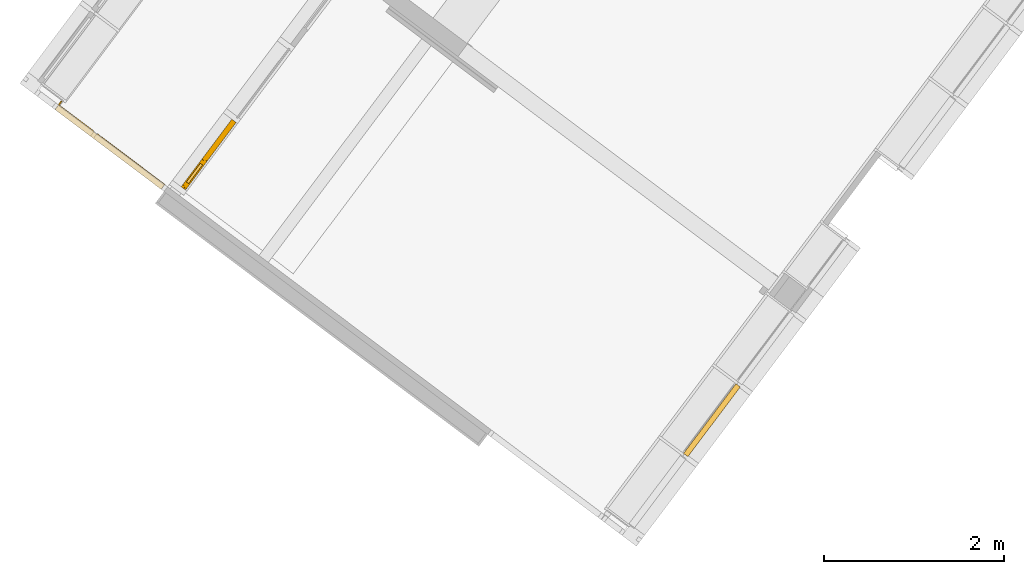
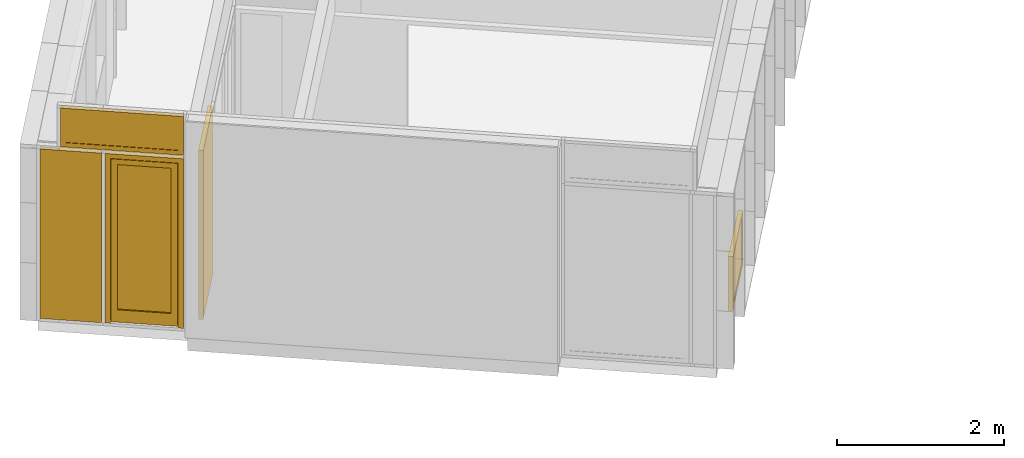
# One storey, part 177 of 243: 3 windows, 2 doors, 3 elements without a shape of their own.
"""IFC2X3 building model written with IfcOpenShell, lengths in metres."""

import ifcopenshell
import ifcopenshell.guid

model = None  # the IFC model being written
_history = None  # IfcOwnerHistory: only IFC2X3 demands one
_inside = {}  # id of a spatial element -> (the spatial element, [elements in it])
_under = {}  # id of a project, library or spatial element -> (it, [spatial elements below it])
_declared = {}  # id of a project -> (the project, [libraries it declares])
_typed = {}  # id of a type object -> (the type object, [elements of that type])
_made_of = {}  # id of a material, layer set ... -> (it, [elements and type objects made of it])


def new_model(schema):
    """Start an empty IFC model of exactly this schema.

    Asked for "IFC4X3", IfcOpenShell would pick the latest addendum, in which some entities
    have other attributes; the version numbers below select the first issue.
    IFC2X3 requires an IfcOwnerHistory on every rooted entity: one is made here for all.
    """
    global model, _history
    if schema == "IFC4X3":
        model = ifcopenshell.file(schema_version=(4, 3, 0, 0))
    else:
        model = ifcopenshell.file(schema=schema)
    _inside.clear()
    _under.clear()
    _declared.clear()
    _typed.clear()
    _made_of.clear()
    _history = None
    if model.schema == "IFC2X3":
        org = make("IfcOrganization", Name="unknown")
        user = make(
            "IfcPersonAndOrganization",
            ThePerson=make("IfcPerson", FamilyName="unknown"),
            TheOrganization=org,
        )
        app = make(
            "IfcApplication",
            ApplicationDeveloper=org,
            Version="unknown",
            ApplicationFullName="unknown",
            ApplicationIdentifier="unknown",
        )
        _history = make(
            "IfcOwnerHistory",
            OwningUser=user,
            OwningApplication=app,
            ChangeAction="ADDED",
            CreationDate=0,
        )
    return model


def make(cls, **values):
    """One entity of the class cls with the attributes given. An attribute that is None is left unset."""
    return model.create_entity(
        cls, **{name: value for name, value in values.items() if value is not None}
    )


def entity(cls, *values):
    """Any entity or typed value of the class cls, its attributes in the order of the schema. None: left unset."""
    e = model.create_entity(cls)
    for i, value in enumerate(values):
        if value is not None:
            e[i] = value
    return e


def rooted(cls, **values):
    """An entity with a GlobalId (a new one), such as an element, a storey or a relation."""
    return make(cls, GlobalId=ifcopenshell.guid.new(), OwnerHistory=_history, **values)


def si_unit(unit_type, name, prefix=None):
    """IfcSIUnit, for example si_unit("LENGTHUNIT", "METRE", prefix="MILLI")."""
    return make("IfcSIUnit", UnitType=unit_type, Prefix=prefix, Name=name)


def converted_unit(unit_type, name, factor, base, dimensions=None, offset=None):
    """IfcConversionBasedUnit, such as the inch: factor (a typed value) times the base unit."""
    return make(
        "IfcConversionBasedUnit"
        if offset is None
        else "IfcConversionBasedUnitWithOffset",
        ConversionOffset=offset,
        Dimensions=None
        if dimensions is None
        else entity("IfcDimensionalExponents", *dimensions),
        UnitType=unit_type,
        Name=name,
        ConversionFactor=make(
            "IfcMeasureWithUnit", ValueComponent=factor, UnitComponent=base
        ),
    )


def derived_unit(unit_type, elements):
    """IfcDerivedUnit: a product of units, each with its exponent."""
    return make(
        "IfcDerivedUnit",
        Elements=[
            make("IfcDerivedUnitElement", Unit=unit, Exponent=power)
            for unit, power in elements
        ],
        UnitType=unit_type,
    )


def assignment(units):
    """IfcUnitAssignment: the units of a project."""
    return None if units is None else make("IfcUnitAssignment", Units=units)


def point(xyz):
    """IfcCartesianPoint."""
    return None if xyz is None else make("IfcCartesianPoint", Coordinates=xyz)


def direction(xyz):
    """IfcDirection."""
    return None if xyz is None else make("IfcDirection", DirectionRatios=xyz)


def frame(location, z_axis=None, x_axis=None):
    """IfcAxis2Placement3D, a coordinate frame: its origin and axes. An axis left out is left unset."""
    return make(
        "IfcAxis2Placement3D",
        Location=point(location),
        Axis=direction(z_axis),
        RefDirection=direction(x_axis),
    )


def frame_2d(location, x_axis=None):
    """IfcAxis2Placement2D, a coordinate frame in the plane: its origin and x axis."""
    return make(
        "IfcAxis2Placement2D", Location=point(location), RefDirection=direction(x_axis)
    )


def origin():
    """The frame at (0, 0, 0) with its axes left unset."""
    return frame((0.0, 0.0, 0.0))


def origin_2d_with_axis():
    """The frame at (0, 0) in the plane with the x axis (1, 0) written out."""
    return frame_2d((0.0, 0.0), x_axis=(1.0, 0.0))


def place(relative_to, where):
    """IfcLocalPlacement: puts the frame where relative to a parent placement (None: the world)."""
    return make(
        "IfcLocalPlacement", PlacementRelTo=relative_to, RelativePlacement=where
    )


def context(
    kind, dimensions, precision=None, world=None, true_north=None, identifier=None
):
    """IfcGeometricRepresentationContext, for example the 3D "Model" context."""
    return make(
        "IfcGeometricRepresentationContext",
        ContextIdentifier=identifier,
        ContextType=kind,
        CoordinateSpaceDimension=dimensions,
        Precision=precision,
        WorldCoordinateSystem=world,
        TrueNorth=true_north,
    )


def subcontext(parent, identifier, kind, view, scale=None):
    """IfcGeometricRepresentationSubContext, for example "Body" below "Model"."""
    return make(
        "IfcGeometricRepresentationSubContext",
        ContextIdentifier=identifier,
        ContextType=kind,
        ParentContext=parent,
        TargetScale=scale,
        TargetView=view,
    )


def project(units=None, contexts=None):
    """IfcProject with its units and contexts."""
    return rooted(
        "IfcProject",
        Name="project",
        RepresentationContexts=contexts,
        UnitsInContext=assignment(units),
    )


def spatial(cls, under=None, at=None, **own):
    """A site, building, storey or space (cls), placed at a placement, below another one or the project."""
    s = rooted(cls, ObjectPlacement=at, **own)
    if under is not None:
        _under.setdefault(under.id(), (under, []))[1].append(s)
    return s


def polyline(points):
    """IfcPolyline through the points."""
    return make("IfcPolyline", Points=[point(p) for p in points])


def profile(cls, at=None, kind="AREA", **sizes):
    """A parametric profile (cls). Its sizes go by their IFC names, for example OverallWidth=200.0."""
    return make(cls, ProfileType=kind, Position=at, **sizes)


def rectangle(**sizes):
    """IfcRectangleProfileDef."""
    return profile("IfcRectangleProfileDef", **sizes)


def outline(outer, holes=None, kind="AREA"):
    """IfcArbitraryClosedProfileDef: a profile drawn as a closed curve; with holes, ...WithVoids."""
    if holes is None:
        return make("IfcArbitraryClosedProfileDef", ProfileType=kind, OuterCurve=outer)
    return make(
        "IfcArbitraryProfileDefWithVoids",
        ProfileType=kind,
        OuterCurve=outer,
        InnerCurves=holes,
    )


def extrude(swept, where, along, depth):
    """IfcExtrudedAreaSolid: the profile swept, set in the frame where, extruded along a direction by depth."""
    return make(
        "IfcExtrudedAreaSolid",
        SweptArea=swept,
        Position=where,
        ExtrudedDirection=direction(along),
        Depth=depth,
    )


def faces_of(points, faces, orient=None, outer=None):
    """IfcFace entities. A face is a list of loops; a loop is a list of indices into points, from 0.

    orient and outer hold one flag for each loop. By default every Orientation is true, the
    first loop of a face is its IfcFaceOuterBound and the others are IfcFaceBound.
    """
    made = []
    for i, loops in enumerate(faces):
        bounds = []
        for j, loop in enumerate(loops):
            is_outer = j == 0 if outer is None else outer[i][j]
            bounds.append(
                make(
                    "IfcFaceOuterBound" if is_outer else "IfcFaceBound",
                    Bound=make("IfcPolyLoop", Polygon=[points[k] for k in loop]),
                    Orientation=True if orient is None else orient[i][j],
                )
            )
        made.append(make("IfcFace", Bounds=bounds))
    return made


def faceted_brep(points, faces, orient=None, outer=None, voids=None):
    """IfcFacetedBrep: a solid bounded by flat faces; with voids (closed shells), ...WithVoids."""
    shared = [point(p) for p in points]
    hull = make("IfcClosedShell", CfsFaces=faces_of(shared, faces, orient, outer))
    if voids is None:
        return make("IfcFacetedBrep", Outer=hull)
    return make(
        "IfcFacetedBrepWithVoids",
        Outer=hull,
        Voids=[
            make(cls, CfsFaces=faces_of(shared, fs, o, b)) for cls, fs, o, b in voids
        ],
    )


def shape(context_of_items, identifier, shape_type, items):
    """IfcShapeRepresentation: the items that make up one representation, for example the "Body"."""
    return make(
        "IfcShapeRepresentation",
        ContextOfItems=context_of_items,
        RepresentationIdentifier=identifier,
        RepresentationType=shape_type,
        Items=items,
    )


def source(mapping_origin, context_of_items, identifier, shape_type, items):
    """IfcRepresentationMap: a shape defined once, which mapped items show again and again."""
    return make(
        "IfcRepresentationMap",
        MappingOrigin=mapping_origin,
        MappedRepresentation=shape(context_of_items, identifier, shape_type, items),
    )


def transform(
    local_origin,
    x_axis=None,
    y_axis=None,
    z_axis=None,
    scale=None,
    scale2=None,
    scale3=None,
    uniform=True,
):
    """IfcCartesianTransformationOperator3D, or its non-uniform kind. x_axis, y_axis, z_axis: its Axis1, 2, 3."""
    if uniform:
        return make(
            "IfcCartesianTransformationOperator3D",
            Axis1=direction(x_axis),
            Axis2=direction(y_axis),
            LocalOrigin=point(local_origin),
            Scale=scale,
            Axis3=direction(z_axis),
        )
    return make(
        "IfcCartesianTransformationOperator3DnonUniform",
        Axis1=direction(x_axis),
        Axis2=direction(y_axis),
        LocalOrigin=point(local_origin),
        Scale=scale,
        Axis3=direction(z_axis),
        Scale2=scale2,
        Scale3=scale3,
    )


def mapped(mapping_source, mapping_target):
    """IfcMappedItem: shows the shape of a source again, moved by a transform."""
    return make(
        "IfcMappedItem", MappingSource=mapping_source, MappingTarget=mapping_target
    )


def material(Name=None, Category=None):
    """IfcMaterial."""
    return make("IfcMaterial", Name=Name, Category=Category)


def material_list(materials):
    """IfcMaterialList."""
    return make("IfcMaterialList", Materials=materials)


def made_of(thing, what):
    """Note that an element or type object is made of a material, layer set ...; save() writes the relation."""
    if what is not None:
        _made_of.setdefault(what.id(), (what, []))[1].append(thing)
    return thing


def type_object(cls, material=None, **own):
    """A type object (cls), such as IfcWallType, which elements share."""
    return made_of(rooted(cls, **own), material)


def type_shapes(of_type, sources):
    """Give a type object the sources (RepresentationMaps) that its elements show as mapped items."""
    of_type.RepresentationMaps = sources


def element(
    cls,
    number,
    at=None,
    inside=None,
    cuts=None,
    type_object=None,
    material=None,
    context=None,
    identifier="Body",
    shape_type=None,
    held_by="IfcProductDefinitionShape",
    body=None,
    shapes=None,
    **own,
):
    """One element of the class cls, such as IfcWall. Its Tag is "e" and its number.

    at: its placement. inside: the storey or other place that contains it. cuts: it is an
    opening in that element (IfcRelVoidsElement). A single representation is given by context,
    identifier, shape_type and body (its items); several are given by shapes. held_by: the class
    of the entity that holds the representations. save() writes the other relations.
    """
    e = rooted(cls, Tag="e%d" % number, ObjectPlacement=at, **own)
    if body is not None:
        shapes = [shape(context, identifier, shape_type, body)]
    if shapes is not None:
        e.Representation = make(held_by, Representations=shapes)
    if inside is not None:
        _inside.setdefault(inside.id(), (inside, []))[1].append(e)
    if cuts is not None:
        rooted(
            "IfcRelVoidsElement", RelatingBuildingElement=cuts, RelatedOpeningElement=e
        )
    if type_object is not None:
        _typed.setdefault(type_object.id(), (type_object, []))[1].append(e)
    return made_of(e, material)


def aggregate(whole, parts):
    """IfcRelAggregates: a whole, such as a stair, and the parts it consists of."""
    return rooted("IfcRelAggregates", RelatingObject=whole, RelatedObjects=parts)


def save(model, path):
    """Write the relations noted so far, then the file.

    IfcRelAggregates (storeys below a building ...), IfcRelContainedInSpatialStructure (elements
    in a storey), IfcRelDefinesByType, IfcRelAssociatesMaterial and IfcRelDeclares: one each for
    every whole, place, type object, material and project.
    """
    for whole, parts in _under.values():
        aggregate(whole, parts)
    for where, things in _inside.values():
        rooted(
            "IfcRelContainedInSpatialStructure",
            RelatedElements=things,
            RelatingStructure=where,
        )
    for kind, things in _typed.values():
        rooted("IfcRelDefinesByType", RelatedObjects=things, RelatingType=kind)
    for what, things in _made_of.values():
        rooted("IfcRelAssociatesMaterial", RelatedObjects=things, RelatingMaterial=what)
    for by, libraries in _declared.values():
        rooted("IfcRelDeclares", RelatingContext=by, RelatedDefinitions=libraries)
    model.write(path)


model = new_model("IFC2X3")

# Units and contexts
model_context = context("Model", 3, precision=1e-05, world=origin(), true_north=direction((6.123031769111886e-17, 1.0)))
body_context = subcontext(model_context, "Body", "Model", "MODEL_VIEW")
ifc_project = project(units=[si_unit("LENGTHUNIT", "METRE"), si_unit("AREAUNIT", "SQUARE_METRE"), si_unit("VOLUMEUNIT", "CUBIC_METRE"), converted_unit("PLANEANGLEUNIT", "DEGREE", entity("IfcRatioMeasure", 0.017453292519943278), si_unit("PLANEANGLEUNIT", "RADIAN"), dimensions=[0, 0, 0, 0, 0, 0, 0]), si_unit("MASSUNIT", "GRAM", prefix="KILO"), derived_unit("MASSDENSITYUNIT", [(si_unit("MASSUNIT", "GRAM", prefix="KILO"), 1), (si_unit("LENGTHUNIT", "METRE"), -3)]), derived_unit("IONCONCENTRATIONUNIT", [(si_unit("MASSUNIT", "GRAM", prefix="KILO"), 1), (si_unit("LENGTHUNIT", "METRE"), -3)]), derived_unit("MOMENTOFINERTIAUNIT", [(si_unit("LENGTHUNIT", "METRE"), 4)]), si_unit("TIMEUNIT", "SECOND"), si_unit("FREQUENCYUNIT", "HERTZ"), si_unit("THERMODYNAMICTEMPERATUREUNIT", "DEGREE_CELSIUS"), derived_unit("THERMALTRANSMITTANCEUNIT", [(si_unit("MASSUNIT", "GRAM", prefix="KILO"), 1), (si_unit("THERMODYNAMICTEMPERATUREUNIT", "KELVIN"), -1), (si_unit("TIMEUNIT", "SECOND"), -3)]), derived_unit("THERMALCONDUCTANCEUNIT", [(si_unit("MASSUNIT", "GRAM", prefix="KILO"), 1), (si_unit("THERMODYNAMICTEMPERATUREUNIT", "KELVIN"), -1), (si_unit("TIMEUNIT", "SECOND"), -3), (si_unit("LENGTHUNIT", "METRE"), 1)]), derived_unit("VOLUMETRICFLOWRATEUNIT", [(si_unit("LENGTHUNIT", "METRE"), 3), (si_unit("TIMEUNIT", "SECOND"), -1)]), derived_unit("MASSFLOWRATEUNIT", [(si_unit("MASSUNIT", "GRAM", prefix="KILO"), 1), (si_unit("TIMEUNIT", "SECOND"), -1)]), derived_unit("ROTATIONALFREQUENCYUNIT", [(si_unit("TIMEUNIT", "SECOND"), -1)]), si_unit("ELECTRICCURRENTUNIT", "AMPERE"), si_unit("ELECTRICVOLTAGEUNIT", "VOLT"), si_unit("POWERUNIT", "WATT"), si_unit("FORCEUNIT", "NEWTON", prefix="KILO"), si_unit("ILLUMINANCEUNIT", "LUX"), si_unit("LUMINOUSFLUXUNIT", "LUMEN"), si_unit("LUMINOUSINTENSITYUNIT", "CANDELA"), derived_unit("USERDEFINED", [(si_unit("MASSUNIT", "GRAM", prefix="KILO"), -1), (si_unit("LENGTHUNIT", "METRE"), -2), (si_unit("TIMEUNIT", "SECOND"), 3), (si_unit("LUMINOUSFLUXUNIT", "LUMEN"), 1)]), derived_unit("USERDEFINED", [(si_unit("MASSUNIT", "GRAM", prefix="KILO"), 1), (si_unit("TIMEUNIT", "SECOND"), -3), (si_unit("LENGTHUNIT", "METRE"), 3), (si_unit("ELECTRICCURRENTUNIT", "AMPERE"), -2)]), derived_unit("SOUNDPOWERUNIT", [(si_unit("MASSUNIT", "GRAM", prefix="KILO"), 1), (si_unit("TIMEUNIT", "SECOND"), -3), (si_unit("LENGTHUNIT", "METRE"), 2)]), derived_unit("SOUNDPRESSUREUNIT", [(si_unit("MASSUNIT", "GRAM", prefix="KILO"), 1), (si_unit("LENGTHUNIT", "METRE"), -1), (si_unit("TIMEUNIT", "SECOND"), -2)]), derived_unit("LINEARVELOCITYUNIT", [(si_unit("LENGTHUNIT", "METRE"), 1), (si_unit("TIMEUNIT", "SECOND"), -1)]), si_unit("PRESSUREUNIT", "PASCAL"), derived_unit("USERDEFINED", [(si_unit("MASSUNIT", "GRAM", prefix="KILO"), 1), (si_unit("LENGTHUNIT", "METRE"), -2), (si_unit("TIMEUNIT", "SECOND"), -2)]), derived_unit("LINEARFORCEUNIT", [(si_unit("MASSUNIT", "GRAM", prefix="KILO"), 1), (si_unit("TIMEUNIT", "SECOND"), -2)]), derived_unit("PLANARFORCEUNIT", [(si_unit("MASSUNIT", "GRAM", prefix="KILO"), 1), (si_unit("LENGTHUNIT", "METRE"), -1), (si_unit("TIMEUNIT", "SECOND"), -2)]), derived_unit("SPECIFICHEATCAPACITYUNIT", [(si_unit("THERMODYNAMICTEMPERATUREUNIT", "KELVIN"), -1), (si_unit("LENGTHUNIT", "METRE"), 2), (si_unit("TIMEUNIT", "SECOND"), -2)]), derived_unit("HEATINGVALUEUNIT", [(si_unit("LENGTHUNIT", "METRE"), 2), (si_unit("TIMEUNIT", "SECOND"), -2)]), derived_unit("VAPORPERMEABILITYUNIT", [(si_unit("LENGTHUNIT", "METRE"), -1), (si_unit("TIMEUNIT", "SECOND"), 1)]), derived_unit("DYNAMICVISCOSITYUNIT", [(si_unit("MASSUNIT", "GRAM", prefix="KILO"), 1), (si_unit("TIMEUNIT", "SECOND"), -1), (si_unit("LENGTHUNIT", "METRE"), -1)]), derived_unit("THERMALEXPANSIONCOEFFICIENTUNIT", [(si_unit("THERMODYNAMICTEMPERATUREUNIT", "KELVIN"), -1)]), derived_unit("MODULUSOFELASTICITYUNIT", [(si_unit("MASSUNIT", "GRAM", prefix="KILO"), 1), (si_unit("LENGTHUNIT", "METRE"), -1), (si_unit("TIMEUNIT", "SECOND"), -2)]), derived_unit("ISOTHERMALMOISTURECAPACITYUNIT", [(si_unit("LENGTHUNIT", "METRE"), 3), (si_unit("MASSUNIT", "GRAM", prefix="KILO"), -1)]), derived_unit("MOISTUREDIFFUSIVITYUNIT", [(si_unit("TIMEUNIT", "SECOND"), -1), (si_unit("LENGTHUNIT", "METRE"), 2)])], contexts=[model_context])

# Site, building, storey
site_placement = place(None, frame((0.0, 0.0, 235.0), z_axis=(0.0, 0.0, 1.0), x_axis=(-0.7996477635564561, 0.6004693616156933, 0.0)))
site = spatial("IfcSite", under=ifc_project, at=site_placement, Name="Default", CompositionType="ELEMENT")
building_placement = place(site_placement, origin())
building = spatial("IfcBuilding", under=site, at=building_placement, CompositionType="ELEMENT")
storey_placement = place(building_placement, origin())
storey = spatial("IfcBuildingStorey", under=building, at=storey_placement, Name="P0- Escola", CompositionType="ELEMENT", Elevation=0.0)

# Curtain wall, window
curtain_wall_type_1 = type_object("IfcCurtainWallType", Name="Muro cortina:MC- INT- a1", PredefinedType="NOTDEFINED")
curtain_wall_1_placement = place(storey_placement, origin())
curtain_wall_1 = element("IfcCurtainWall", 1, at=curtain_wall_1_placement, inside=storey, type_object=curtain_wall_type_1, Name="Muro cortina:MC- INT- a1", ObjectType="Muro cortina:MC- INT- a1")
ifc_material_1 = material(Name="_Fusta massisa- T1-  REV- PAV")
window_style_1 = type_object("IfcWindowStyle", Name="MC- Fusta- Finestra ventilacio interior:MC- Fusta- Finestra ventilacio interior", ConstructionType="NOTDEFINED", OperationType="NOTDEFINED", ParameterTakesPrecedence=False, Sizeable=False, material=ifc_material_1)
shared_shape_1 = source(origin(), body_context, "Body", "Brep", [
    faceted_brep([(-0.39299910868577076, 0.025000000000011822, 2.382999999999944), (-0.3929991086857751, 0.025000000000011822, 1.0449999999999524), (-0.13199910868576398, 0.0250000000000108, 1.0449999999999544), (-0.13199910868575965, 0.02500000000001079, 2.382999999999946), (-0.13199910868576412, -0.004999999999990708, 1.0449999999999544), (-0.1319991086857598, -0.004999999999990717, 2.382999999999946), (-0.3929991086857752, -0.004999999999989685, 1.0449999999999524), (-0.3929991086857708, -0.004999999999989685, 2.382999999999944), (-0.08699910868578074, 0.04000000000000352, 2.427999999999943), (-0.08699910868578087, 0.01000000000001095, 2.428000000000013), (-0.08699910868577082, 0.010000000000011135, 1.0), (-0.08699910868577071, 0.04000000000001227, 1.0), (-0.43799910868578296, 0.010000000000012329, 1.0), (-0.43799910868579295, 0.010000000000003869, 2.427999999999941), (-0.4379991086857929, 0.0400000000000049, 2.427999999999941), (-0.4379991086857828, 0.04000000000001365, 1.0), (-0.07199910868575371, 0.009999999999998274, 0.9850000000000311), (-0.45299910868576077, 0.009999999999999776, 0.9850000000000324), (-0.45299910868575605, 0.010000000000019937, 2.4430000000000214), (-0.07199910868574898, 0.010000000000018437, 2.44300000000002), (-0.07199910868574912, -0.019999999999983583, 2.443000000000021), (-0.45299910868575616, -0.019999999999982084, 2.443000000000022), (-0.45299910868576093, -0.02000000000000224, 0.985000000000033), (-0.07199910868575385, -0.020000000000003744, 0.9850000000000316)], [[[0, 1, 2, 3]], [[3, 2, 4, 5]], [[5, 4, 6, 7]], [[1, 0, 7, 6]], [[8, 9, 10, 11]], [[12, 13, 14, 15]], [[13, 9, 8, 14]], [[8, 11, 15, 14]], [[0, 3, 5, 7]], [[2, 1, 6, 4]], [[11, 10, 12, 15]], [[9, 13, 12, 10], [16, 17, 18, 19]], [[20, 21, 22, 23]], [[20, 19, 18, 21]], [[16, 19, 20, 23]], [[18, 17, 22, 21]], [[16, 23, 22, 17]]], outer=[[True], [True], [True], [True], [True], [True], [True], [True], [True], [True], [True], [False, True], [True], [True], [True], [True], [True]]),
    faceted_brep([(0.4649991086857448, -0.019999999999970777, 2.4549999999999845), (-0.4649991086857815, -0.019999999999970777, 2.4549999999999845), (-0.46499910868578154, -0.020000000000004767, 0.004999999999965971), (0.46499910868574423, -0.020000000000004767, 0.004999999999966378), (-0.4549991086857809, -0.019999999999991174, 0.9850000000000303), (-0.4549991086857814, -0.01999999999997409, 2.444999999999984), (-0.06999910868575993, -0.019999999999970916, 2.444999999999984), (-0.06999910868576, -0.019999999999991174, 0.9850000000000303), (-0.46499910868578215, -0.01599999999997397, 2.454999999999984), (-0.46499910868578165, -0.01600000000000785, 0.004999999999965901), (0.4649991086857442, -0.01600000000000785, 0.004999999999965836), (0.4649991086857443, -0.01599999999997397, 2.454999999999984), (-0.4699991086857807, -0.015999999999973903, 2.459999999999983), (-0.4699991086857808, -0.016000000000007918, 0.0), (0.4699991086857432, -0.016000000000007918, 0.0), (0.46999910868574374, -0.015999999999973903, 2.459999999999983), (0.4649991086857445, 0.03600000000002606, 2.454999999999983), (-0.4649991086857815, 0.03600000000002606, 2.454999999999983), (-0.46499910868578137, 0.03599999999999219, 0.004999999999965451), (0.46499910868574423, 0.03599999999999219, 0.004999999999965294), (0.4699991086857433, 0.036000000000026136, 2.459999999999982), (0.4699991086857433, 0.03599999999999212, 0.0), (-0.4699991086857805, 0.03599999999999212, 0.0), (-0.46999910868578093, 0.036000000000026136, 2.4599999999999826), (-0.46499910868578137, 0.03999999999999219, 0.004999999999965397), (0.4649991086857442, 0.03999999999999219, 0.004999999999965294), (-0.4649991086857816, 0.040000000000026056, 2.4550000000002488), (0.464999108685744, 0.040000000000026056, 2.4549999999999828), (-0.08499910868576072, 0.04000000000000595, 1.0), (-0.08499910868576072, 0.04000000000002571, 2.4299999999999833), (-0.4399991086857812, 0.040000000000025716, 2.4299999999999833), (-0.43999910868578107, 0.04000000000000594, 1.0), (-0.43999910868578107, 0.01000000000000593, 1.0), (-0.43999910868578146, 0.010000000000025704, 2.4299999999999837), (-0.08499910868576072, 0.010000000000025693, 2.4299999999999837), (-0.08499910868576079, 0.010000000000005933, 1.0), (-0.4549991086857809, 0.010000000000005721, 0.9850000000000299), (-0.08499910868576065, 0.010000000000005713, 0.9850000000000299), (-0.06999910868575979, 0.010000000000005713, 0.9850000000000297), (-0.06999910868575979, 0.0100000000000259, 2.4449999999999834), (-0.08499910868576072, 0.0100000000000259, 2.4449999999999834), (-0.4549991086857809, 0.010000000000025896, 2.4449999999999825)], [[[0, 1, 2, 3], [4, 5, 6, 7]], [[8, 9, 2, 1]], [[3, 2, 9, 10]], [[10, 9, 8, 11], [12, 13, 14, 15]], [[16, 17, 18, 19], [20, 21, 22, 23]], [[19, 18, 24, 25]], [[25, 24, 26, 27], [28, 29, 30, 31]], [[32, 33, 34, 35], [36, 37, 38, 39, 40, 41]], [[28, 31, 32, 35]], [[35, 34, 29, 28]], [[33, 32, 31, 30]], [[5, 4, 36, 41]], [[7, 6, 39, 38]], [[38, 37, 36, 4, 7]], [[0, 3, 10, 11]], [[16, 19, 25, 27]], [[15, 14, 21, 20]], [[14, 13, 22, 21]], [[23, 22, 13, 12]], [[1, 0, 11, 8]], [[12, 15, 20, 23]], [[41, 40, 39, 6, 5]], [[30, 29, 34, 33]], [[17, 16, 27, 26]], [[26, 24, 18, 17]]], outer=[[True, False], [True], [True], [False, True], [False, True], [True], [True, False], [False, True], [True], [True], [True], [True], [True], [True], [True], [True], [True], [True], [True], [True], [True], [True], [True], [True], [True]]),
])
type_shapes(window_style_1, [shared_shape_1])
window_1_placement = place(curtain_wall_1_placement, frame((72.72014768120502, -20.915190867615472, 0.059999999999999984), z_axis=(0.0, 0.0, 1.0), x_axis=(0.0, -1.0, 0.0)))
window_1 = element("IfcWindow", 2, at=window_1_placement, type_object=window_style_1, material=ifc_material_1, Name="MC- Fusta- Finestra ventilacio interior:MC- Fusta- Finestra ventilacio interior", ObjectType="MC- Fusta- Finestra ventilacio interior:MC- Fusta- Finestra ventilacio interior", OverallHeight=2.4600000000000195, OverallWidth=0.9399982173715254, context=body_context, shape_type="MappedRepresentation", body=[
    mapped(shared_shape_1, transform((0.0, 0.0, 0.0), scale=1.0)),
])
aggregate(curtain_wall_1, [window_1])

curtain_wall_type_2 = type_object("IfcCurtainWallType", Name="Muro cortina:MC- EXT- MC2", PredefinedType="NOTDEFINED")
curtain_wall_2_placement = place(storey_placement, origin())
curtain_wall_2 = element("IfcCurtainWall", 3, at=curtain_wall_2_placement, inside=storey, type_object=curtain_wall_type_2, Name="Muro cortina:MC- EXT- MC2", ObjectType="Muro cortina:MC- EXT- MC2")
ifc_material_2 = material(Name="_Vidre")
ifc_material_3 = material(Name="_Alumini- T1- Perfil")
ifc_material_list_1 = material_list([ifc_material_2, ifc_material_3])
window_style_2 = type_object("IfcWindowStyle", Name="MC- Alu- Conjunt vidre fix- 62x60 cm:MC- Alu- Conjunt vidre fix- 62x60 cm", ConstructionType="NOTDEFINED", OperationType="NOTDEFINED", ParameterTakesPrecedence=False, Sizeable=False, material=ifc_material_list_1)
shared_shape_2 = source(origin(), body_context, "Body", "Brep", [
    faceted_brep([(0.4361932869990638, -0.007600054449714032, 0.048806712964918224), (0.4361932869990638, -0.03160022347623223, 0.048806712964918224), (-0.4361932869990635, -0.03160022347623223, 0.048806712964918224), (-0.4361932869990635, -0.007600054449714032, 0.048806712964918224), (0.4361932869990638, -0.007600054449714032, 0.7387000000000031), (-0.4361932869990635, -0.007600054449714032, 0.7387000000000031), (-0.4361932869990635, -0.03160022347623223, 0.7387000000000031), (0.4361932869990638, -0.03160022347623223, 0.7387000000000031)], [[[0, 1, 2, 3]], [[4, 0, 3, 5]], [[5, 3, 2, 6]], [[6, 2, 1, 7]], [[7, 1, 0, 4]], [[4, 5, 6, 7]]]),
    faceted_brep([(0.48499999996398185, -0.05999999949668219, 0.7877000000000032), (0.48499999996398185, -0.05999999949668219, 0.0), (0.48499999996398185, 0.0, 0.0), (0.48499999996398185, 0.0, 0.787700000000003), (-0.48499999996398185, 0.0, 0.7877000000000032), (-0.48499999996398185, 0.0, 0.0), (0.4221931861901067, 0.0, 0.7248931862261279), (-0.42219318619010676, 0.0, 0.724893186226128), (-0.4221931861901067, 0.0, 0.0628068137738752), (0.4221931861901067, 0.0, 0.06280681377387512), (-0.48499999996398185, -0.05999999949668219, 0.0), (-0.48499999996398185, -0.05999999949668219, 0.7877000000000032), (-0.42219603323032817, -0.05999999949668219, 0.7248960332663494), (0.42219603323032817, -0.05999999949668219, 0.7248960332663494), (0.42219603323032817, -0.05999999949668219, 0.0628039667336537), (-0.42219603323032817, -0.05999999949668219, 0.0628039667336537), (0.4221960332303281, -0.03160022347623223, 0.7248960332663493), (0.42219603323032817, -0.03160022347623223, 0.0628039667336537), (-0.42219603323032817, -0.03160022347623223, 0.06280396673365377), (-0.42219603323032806, -0.03160022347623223, 0.7248960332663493), (-0.43619328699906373, -0.03160022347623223, 0.738893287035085), (0.43619328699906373, -0.03160022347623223, 0.738893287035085), (0.43619328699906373, -0.03160022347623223, 0.048806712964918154), (-0.43619328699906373, -0.03160022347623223, 0.04880671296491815), (0.43619328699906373, -0.007600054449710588, 0.738893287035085), (0.43619328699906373, -0.007600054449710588, 0.04880671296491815), (-0.43619328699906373, -0.007600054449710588, 0.048806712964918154), (-0.43619328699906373, -0.007600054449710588, 0.738893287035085), (-0.42219318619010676, -0.007600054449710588, 0.724893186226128), (0.42219318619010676, -0.007600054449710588, 0.724893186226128), (0.42219318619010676, -0.007600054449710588, 0.06280681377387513), (-0.42219318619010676, -0.007600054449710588, 0.06280681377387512)], [[[0, 1, 2, 3]], [[4, 3, 2, 5], [6, 7, 8, 9]], [[1, 10, 5, 2]], [[0, 11, 10, 1], [12, 13, 14, 15]], [[16, 17, 14, 13]], [[17, 18, 15, 14]], [[16, 19, 18, 17], [20, 21, 22, 23]], [[24, 25, 22, 21]], [[25, 26, 23, 22]], [[24, 27, 26, 25], [28, 29, 30, 31]], [[6, 9, 30, 29]], [[9, 8, 31, 30]], [[10, 11, 4, 5]], [[18, 19, 12, 15]], [[26, 27, 20, 23]], [[8, 7, 28, 31]], [[11, 0, 3, 4]], [[19, 16, 13, 12]], [[27, 24, 21, 20]], [[7, 6, 29, 28]]], outer=[[True], [True, False], [True], [True, False], [True], [True], [False, True], [True], [True], [True, False], [True], [True], [True], [True], [True], [True], [True], [True], [True], [True]]),
])
type_shapes(window_style_2, [shared_shape_2])
window_2_placement = place(curtain_wall_2_placement, frame((66.44514768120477, -21.915191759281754, 0.03229999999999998), z_axis=(0.0, 0.0, 1.0), x_axis=(0.0, 1.0, 0.0)))
window_2 = element("IfcWindow", 4, at=window_2_placement, type_object=window_style_2, material=ifc_material_list_1, Name="MC- Alu- Conjunt vidre fix- 62x60 cm:MC- Alu- Conjunt vidre fix- 62x60 cm", ObjectType="MC- Alu- Conjunt vidre fix- 62x60 cm:MC- Alu- Conjunt vidre fix- 62x60 cm", OverallHeight=0.7877000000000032, OverallWidth=0.9699999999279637, context=body_context, shape_type="MappedRepresentation", body=[
    mapped(shared_shape_2, transform((0.0, 0.0, 0.0), scale=1.0)),
])
aggregate(curtain_wall_2, [window_2])

# Curtain wall, doors, window
curtain_wall_type_3 = type_object("IfcCurtainWallType", Name="Muro cortina:MC- EXT- AL1- Fa porxo", PredefinedType="NOTDEFINED")
curtain_wall_3_placement = place(storey_placement, origin())
curtain_wall_3 = element("IfcCurtainWall", 5, at=curtain_wall_3_placement, inside=storey, type_object=curtain_wall_type_3, Name="Muro cortina:MC- EXT- AL1- Fa porxo", ObjectType="Muro cortina:MC- EXT- AL1- Fa porxo")
ifc_material_4 = material(Name="_Fusta massisa- T1")
ifc_material_5 = material(Name="_Aillament")
ifc_material_list_2 = material_list([ifc_material_4, ifc_material_5, ifc_material_3])
door_style_1 = type_object("IfcDoorStyle", Name="MC- Alu- panell especific:MC- Alu- panell especific", ConstructionType="NOTDEFINED", OperationType="NOTDEFINED", ParameterTakesPrecedence=False, Sizeable=False, material=ifc_material_list_2)
shared_shape_3 = source(origin(), body_context, "Body", "SweptSolid", [
    extrude(outline(polyline([(-0.3273333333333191, -0.009999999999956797), (-0.3273333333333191, -0.030000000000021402), (0.17116666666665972, -0.030000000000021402), (0.17116666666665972, 0.03999999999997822), (0.15616666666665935, 0.03999999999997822), (0.15616666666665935, -0.009999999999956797), (-0.3273333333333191, -0.009999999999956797)])), frame((-0.04191666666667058, -0.08000000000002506, 0.0), z_axis=(0.0, 0.0, -1.0), x_axis=(1.0, 0.0, 0.0)), (0.0, 0.0, -1.0), 2.4712499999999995),
    extrude(rectangle(XDim=0.04400000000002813, YDim=0.7384999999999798, at=origin_2d_with_axis()), frame((0.0, -0.027999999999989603, 0.0), z_axis=(0.0, 0.0, 1.0), x_axis=(0.0, 1.0, 0.0)), (0.0, 0.0, 1.0), 2.4712499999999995),
    extrude(rectangle(XDim=0.73849999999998, YDim=0.005999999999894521, at=origin_2d_with_axis()), frame((0.0, -0.003000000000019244, 0.0), z_axis=(0.0, 0.0, 1.0), x_axis=(-1.0, 0.0, 0.0)), (0.0, 0.0, 1.0), 2.4712499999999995),
])
type_shapes(door_style_1, [shared_shape_3])
door_1_placement = place(curtain_wall_3_placement, frame((74.27489768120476, -20.28894175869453, 0.02099999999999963)))
door_1 = element("IfcDoor", 6, at=door_1_placement, type_object=door_style_1, material=ifc_material_list_2, Name="MC- Alu- panell especific:MC- Alu- panell especific", ObjectType="MC- Alu- panell especific:MC- Alu- panell especific", OverallHeight=2.4712499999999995, OverallWidth=0.7384999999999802, context=body_context, shape_type="MappedRepresentation", body=[
    mapped(shared_shape_3, transform((0.0, 0.0, 0.0), scale=1.0)),
])
ifc_material_list_3 = material_list([ifc_material_3, ifc_material_2])
door_style_2 = type_object("IfcDoorStyle", Name="MC- Alu- Conjunt porta- 70x60 cm- +15cm- obertura int:MC- Alu- Conjunt porta- 70x60 cm- +15cm- obertura int", ConstructionType="NOTDEFINED", OperationType="NOTDEFINED", ParameterTakesPrecedence=False, Sizeable=False, material=ifc_material_list_3)
shared_shape_4 = source(origin(), body_context, "Body", "Brep", [
    faceted_brep([(-0.3984499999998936, 0.0, 0.024000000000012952), (0.39844999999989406, 0.0, 0.024000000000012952), (0.39844999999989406, -0.06569970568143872, 0.024000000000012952), (-0.3984499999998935, -0.0656997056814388, 0.024000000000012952), (-0.3984499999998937, -0.0656997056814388, 2.397949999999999), (-0.3984499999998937, 0.0, 2.397949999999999), (0.39844999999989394, -0.06569970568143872, 2.397949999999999), (0.4224499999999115, -0.06569970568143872, 0.0), (-0.42244999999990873, -0.0656997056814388, 0.0), (-0.4224499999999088, -0.0656997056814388, 2.421950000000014), (0.4224499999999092, -0.06569970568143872, 2.421950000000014), (0.39844999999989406, 0.0, 2.397949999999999), (-0.32184999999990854, 0.0, 2.3213500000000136), (-0.3218499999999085, 0.0, 0.20400000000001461), (0.32184999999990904, 0.0, 0.20400000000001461), (0.32184999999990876, 0.0, 2.3213500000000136), (0.4224499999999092, -0.0699997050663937, 2.421950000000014), (0.4224499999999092, -0.0699997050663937, 0.0), (-0.42244999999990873, -0.0699997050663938, 0.0), (-0.4224499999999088, -0.0699997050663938, 2.421950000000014), (0.32184999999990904, -0.06999970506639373, 2.321350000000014), (0.321849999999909, -0.06999970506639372, 0.20400000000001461), (-0.3218499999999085, -0.06999970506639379, 0.20400000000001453), (-0.32184999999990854, -0.06999970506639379, 2.3213500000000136), (0.3218499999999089, -0.06449970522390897, 2.3213500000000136), (0.32184999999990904, -0.06449970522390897, 0.20400000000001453), (-0.3218499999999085, -0.06449970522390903, 0.20400000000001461), (-0.32184999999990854, -0.06449970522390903, 2.3213500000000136), (0.34685000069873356, -0.06449970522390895, 2.3463500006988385), (0.34685000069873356, -0.06449970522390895, 0.17899999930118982), (-0.34685000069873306, -0.06449970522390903, 0.17899999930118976), (-0.34685000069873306, -0.06449970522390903, 2.346350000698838), (0.34685000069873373, -0.018999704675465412, 2.3463500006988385), (0.34685000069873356, -0.01899970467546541, 0.17899999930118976), (-0.34685000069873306, -0.018999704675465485, 0.17899999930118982), (-0.34685000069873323, -0.01899970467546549, 2.346350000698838), (0.32184999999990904, -0.018999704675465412, 2.321350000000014), (0.3218499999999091, -0.018999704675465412, 0.20400000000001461), (-0.3218499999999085, -0.018999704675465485, 0.20400000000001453), (-0.32184999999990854, -0.018999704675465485, 2.3213500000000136)], [[[0, 1, 2, 3]], [[4, 5, 0, 3]], [[2, 6, 4, 3], [7, 8, 9, 10]], [[2, 1, 11, 6]], [[11, 1, 0, 5], [12, 13, 14, 15]], [[16, 17, 7, 10]], [[8, 7, 17, 18]], [[18, 17, 16, 19], [20, 21, 22, 23]], [[24, 25, 21, 20]], [[21, 25, 26, 22]], [[27, 26, 25, 24], [28, 29, 30, 31]], [[32, 33, 29, 28]], [[33, 34, 30, 29]], [[35, 34, 33, 32], [36, 37, 38, 39]], [[15, 14, 37, 36]], [[37, 14, 13, 38]], [[9, 8, 18, 19]], [[23, 22, 26, 27]], [[31, 30, 34, 35]], [[39, 38, 13, 12]], [[19, 16, 10, 9]], [[27, 24, 20, 23]], [[35, 32, 28, 31]], [[12, 15, 36, 39]], [[4, 6, 11, 5]]], outer=[[True], [True], [False, True], [True], [True, False], [True], [True], [True, False], [True], [True], [False, True], [True], [True], [True, False], [True], [True], [True], [True], [True], [True], [True], [True], [True], [True], [True]]),
    faceted_brep([(0.34685000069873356, -0.060899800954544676, 0.17899999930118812), (-0.3468500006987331, -0.06089980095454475, 0.17899999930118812), (-0.3468500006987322, -0.028899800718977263, 0.17899999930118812), (0.34685000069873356, -0.028899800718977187, 0.17899999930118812), (0.34685000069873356, -0.060899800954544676, 2.3463500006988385), (0.34685000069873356, -0.028899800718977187, 2.3463500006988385), (-0.3468500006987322, -0.028899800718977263, 2.3463500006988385), (-0.3468500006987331, -0.06089980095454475, 2.3463500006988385)], [[[0, 1, 2, 3]], [[4, 0, 3, 5]], [[5, 3, 2, 6]], [[6, 2, 1, 7]], [[7, 1, 0, 4]], [[4, 5, 6, 7]]]),
    faceted_brep([(-0.47174999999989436, -0.06999999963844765, 0.0), (-0.47174999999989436, 0.0, 0.0), (-0.4044500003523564, 0.0, 0.0), (-0.4044500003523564, -0.008800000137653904, 0.0), (-0.4199499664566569, -0.008800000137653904, 0.0), (-0.4199499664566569, -0.059699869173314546, 0.0), (-0.43044999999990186, -0.059699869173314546, 0.0), (-0.43044999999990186, -0.06999999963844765, 0.0), (-0.43044999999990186, -0.06999999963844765, 2.4299500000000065), (0.43044999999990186, -0.06999999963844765, 2.4299500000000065), (0.43044999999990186, -0.06999999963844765, 0.0), (0.47174999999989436, -0.06999999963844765, 0.0), (0.47174999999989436, -0.06999999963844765, 2.471249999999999), (-0.4717499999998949, -0.06999999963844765, 2.4712500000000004), (-0.43044999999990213, -0.059699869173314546, 2.4299500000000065), (-0.4199499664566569, -0.059699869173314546, 2.4194499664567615), (0.4199499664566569, -0.059699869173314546, 2.4194499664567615), (0.4199499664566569, -0.059699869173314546, 0.0), (0.43044999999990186, -0.059699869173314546, 0.0), (0.43044999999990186, -0.059699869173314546, 2.4299500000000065), (-0.41994996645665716, -0.008800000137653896, 2.4194499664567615), (-0.4044500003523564, -0.008800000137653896, 2.403950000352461), (0.4044500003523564, -0.008800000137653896, 2.403950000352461), (0.4044500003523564, -0.008800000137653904, 0.0), (0.4199499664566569, -0.008800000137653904, 0.0), (0.4199499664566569, -0.008800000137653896, 2.4194499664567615), (-0.4044500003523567, 0.0, 2.403950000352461), (-0.47174999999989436, 0.0, 2.471249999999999), (0.47174999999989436, 0.0, 2.471249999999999), (0.47174999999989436, 0.0, 0.0), (0.4044500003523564, 0.0, 0.0), (0.4044500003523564, 0.0, 2.403950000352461)], [[[0, 1, 2, 3, 4, 5, 6, 7]], [[7, 8, 9, 10, 11, 12, 13, 0]], [[6, 14, 8, 7]], [[5, 15, 16, 17, 18, 19, 14, 6]], [[4, 20, 15, 5]], [[3, 21, 22, 23, 24, 25, 20, 4]], [[2, 26, 21, 3]], [[1, 27, 28, 29, 30, 31, 26, 2]], [[0, 13, 27, 1]], [[11, 10, 18, 17, 24, 23, 30, 29]], [[12, 11, 29, 28]], [[31, 30, 23, 22]], [[25, 24, 17, 16]], [[19, 18, 10, 9]], [[14, 19, 9, 8]], [[20, 25, 16, 15]], [[26, 31, 22, 21]], [[13, 12, 28, 27]]]),
])
type_shapes(door_style_2, [shared_shape_4])
door_2_placement = place(curtain_wall_3_placement, frame((73.39289768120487, -20.288941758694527, 0.020999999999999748)))
door_2 = element("IfcDoor", 7, at=door_2_placement, type_object=door_style_2, material=ifc_material_list_3, Name="MC- Alu- Conjunt porta- 70x60 cm- +15cm- obertura int:MC- Alu- Conjunt porta- 70x60 cm- +15cm- obertura int", ObjectType="MC- Alu- Conjunt porta- 70x60 cm- +15cm- obertura int:MC- Alu- Conjunt porta- 70x60 cm- +15cm- obertura int", OverallHeight=2.4712500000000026, OverallWidth=0.9434999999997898, context=body_context, shape_type="MappedRepresentation", body=[
    mapped(shared_shape_4, transform((0.0, 0.0, 0.0), scale=1.0)),
])
window_style_3 = type_object("IfcWindowStyle", Name="MC- Alu- Conjunt vidre fix- 62x60 cm:MC- Alu- Conjunt vidre fix- 62x60 cm", ConstructionType="NOTDEFINED", OperationType="NOTDEFINED", ParameterTakesPrecedence=False, Sizeable=False, material=ifc_material_list_1)
shared_shape_5 = source(origin(), body_context, "Body", "Brep", [
    faceted_brep([(0.6896099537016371, -0.007600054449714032, 0.048806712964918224), (0.6896099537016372, -0.03160022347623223, 0.048806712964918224), (-0.6896099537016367, -0.03160022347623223, 0.048806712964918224), (-0.689609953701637, -0.007600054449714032, 0.048806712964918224), (0.6896099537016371, -0.007600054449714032, 0.5147500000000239), (-0.6896099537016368, -0.007600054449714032, 0.5147500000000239), (-0.6896099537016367, -0.03160022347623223, 0.5147500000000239), (0.6896099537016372, -0.03160022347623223, 0.5147500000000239)], [[[0, 1, 2, 3]], [[4, 0, 3, 5]], [[5, 3, 2, 6]], [[6, 2, 1, 7]], [[7, 1, 0, 4]], [[4, 5, 6, 7]]]),
    faceted_brep([(0.7384166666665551, -0.05999999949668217, 0.563750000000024), (0.7384166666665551, -0.05999999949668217, 0.0), (0.7384166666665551, 0.0, 0.0), (0.7384166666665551, 0.0, 0.563750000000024), (-0.7384166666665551, 0.0, 0.563750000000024), (-0.7384166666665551, 0.0, 0.0), (0.6756098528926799, 0.0, 0.5009431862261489), (-0.6756098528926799, 0.0, 0.5009431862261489), (-0.6756098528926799, 0.0, 0.06280681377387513), (0.6756098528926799, 0.0, 0.06280681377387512), (-0.7384166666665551, -0.05999999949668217, 0.0), (-0.7384166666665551, -0.05999999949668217, 0.563750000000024), (-0.6756126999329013, -0.05999999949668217, 0.5009460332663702), (0.6756126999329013, -0.05999999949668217, 0.5009460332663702), (0.6756126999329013, -0.05999999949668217, 0.06280396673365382), (-0.6756126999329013, -0.05999999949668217, 0.06280396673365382), (0.6756126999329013, -0.03160022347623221, 0.5009460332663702), (0.6756126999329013, -0.03160022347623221, 0.06280396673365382), (-0.6756126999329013, -0.03160022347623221, 0.06280396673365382), (-0.6756126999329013, -0.03160022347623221, 0.5009460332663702), (-0.689609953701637, -0.03160022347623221, 0.5149432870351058), (0.689609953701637, -0.03160022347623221, 0.5149432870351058), (0.689609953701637, -0.03160022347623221, 0.048806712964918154), (-0.689609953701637, -0.03160022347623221, 0.04880671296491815), (0.689609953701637, -0.007600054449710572, 0.5149432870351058), (0.689609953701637, -0.007600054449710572, 0.04880671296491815), (-0.689609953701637, -0.007600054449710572, 0.048806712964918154), (-0.689609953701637, -0.007600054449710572, 0.5149432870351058), (-0.6756098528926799, -0.007600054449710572, 0.5009431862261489), (0.6756098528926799, -0.007600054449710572, 0.5009431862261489), (0.6756098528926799, -0.007600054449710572, 0.06280681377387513), (-0.6756098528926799, -0.007600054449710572, 0.06280681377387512)], [[[0, 1, 2, 3]], [[4, 3, 2, 5], [6, 7, 8, 9]], [[1, 10, 5, 2]], [[0, 11, 10, 1], [12, 13, 14, 15]], [[16, 17, 14, 13]], [[17, 18, 15, 14]], [[16, 19, 18, 17], [20, 21, 22, 23]], [[24, 25, 22, 21]], [[25, 26, 23, 22]], [[24, 27, 26, 25], [28, 29, 30, 31]], [[6, 9, 30, 29]], [[9, 8, 31, 30]], [[10, 11, 4, 5]], [[18, 19, 12, 15]], [[26, 27, 20, 23]], [[8, 7, 28, 31]], [[11, 0, 3, 4]], [[19, 16, 13, 12]], [[27, 24, 21, 20]], [[7, 6, 29, 28]]], outer=[[True], [True, False], [True], [True, False], [True], [True], [False, True], [True], [True], [True, False], [True], [True], [True], [True], [True], [True], [True], [True], [True], [True]]),
])
type_shapes(window_style_3, [shared_shape_5])
window_3_placement = place(curtain_wall_3_placement, frame((73.65956434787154, -20.288941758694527, 2.54525)))
window_3 = element("IfcWindow", 8, at=window_3_placement, type_object=window_style_3, material=ifc_material_list_1, Name="MC- Alu- Conjunt vidre fix- 62x60 cm:MC- Alu- Conjunt vidre fix- 62x60 cm", ObjectType="MC- Alu- Conjunt vidre fix- 62x60 cm:MC- Alu- Conjunt vidre fix- 62x60 cm", OverallHeight=0.563750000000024, OverallWidth=1.4768333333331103, context=body_context, shape_type="MappedRepresentation", body=[
    mapped(shared_shape_5, transform((0.0, 0.0, 0.0), scale=1.0)),
])
aggregate(curtain_wall_3, [door_1, door_2, window_3])

save(model, "model.ifc")
